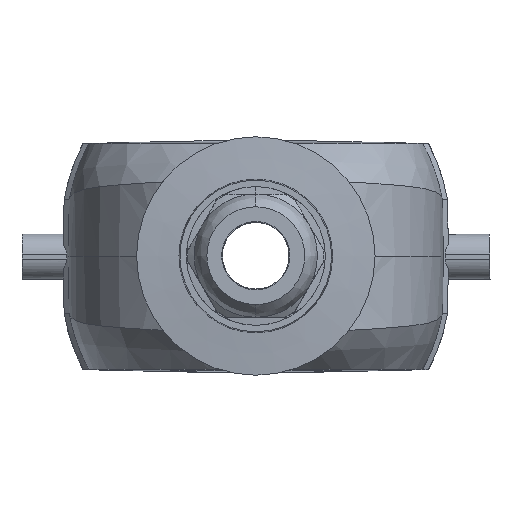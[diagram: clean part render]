
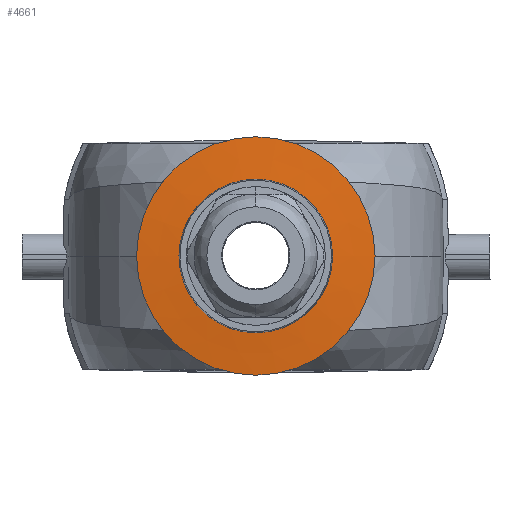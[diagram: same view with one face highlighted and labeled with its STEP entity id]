
A CAD part, top view. The second image highlights one B-rep face of the part: STEP entity #4661.
In plain terms, the highlighted conical face has half-angle 85 degrees and reference radius 23.25 mm.
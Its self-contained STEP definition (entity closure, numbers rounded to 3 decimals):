
#3927=CONICAL_SURFACE('',#11075,23.25,85.);
#4305=FACE_BOUND('',#5704,.T.);
#4306=FACE_BOUND('',#5705,.T.);
#4661=ADVANCED_FACE('',(#4305,#4306),#3927,.T.);
#5704=EDGE_LOOP('',(#7549));
#5705=EDGE_LOOP('',(#7550));
#7549=ORIENTED_EDGE('',*,*,#9769,.T.);
#7550=ORIENTED_EDGE('',*,*,#9770,.T.);
#8684=VERTEX_POINT('',#18931);
#8685=VERTEX_POINT('',#18933);
#9769=EDGE_CURVE('',#8684,#8684,#10142,.T.);
#9770=EDGE_CURVE('',#8685,#8685,#10143,.T.);
#10142=CIRCLE('',#11073,14.949);
#10143=CIRCLE('',#11074,23.2);
#11073=AXIS2_PLACEMENT_3D('',#18930,#12701,#12702);
#11074=AXIS2_PLACEMENT_3D('',#18932,#12703,#12704);
#11075=AXIS2_PLACEMENT_3D('',#18934,#12705,#12706);
#12701=DIRECTION('',(0.,0.,-1.));
#12702=DIRECTION('',(1.,0.,0.));
#12703=DIRECTION('',(0.,0.,1.));
#12704=DIRECTION('',(-1.,0.,0.));
#12705=DIRECTION('',(0.,0.,-1.));
#12706=DIRECTION('',(-1.,0.,0.));
#18930=CARTESIAN_POINT('',(0.,0.,70.576));
#18931=CARTESIAN_POINT('',(14.949,0.,70.576));
#18932=CARTESIAN_POINT('',(0.,0.,69.854));
#18933=CARTESIAN_POINT('',(-23.2,0.,69.854));
#18934=CARTESIAN_POINT('',(0.,0.,69.85));
